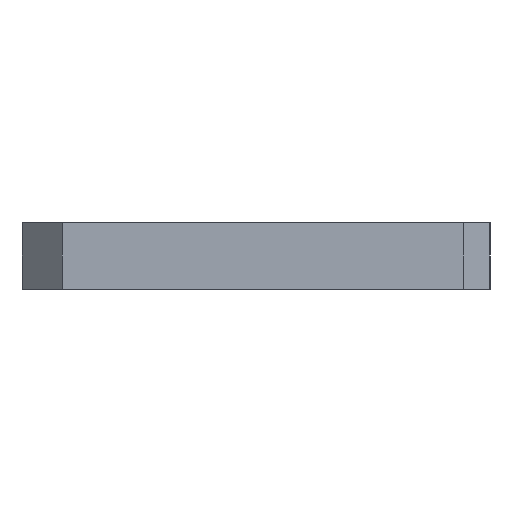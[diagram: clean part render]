
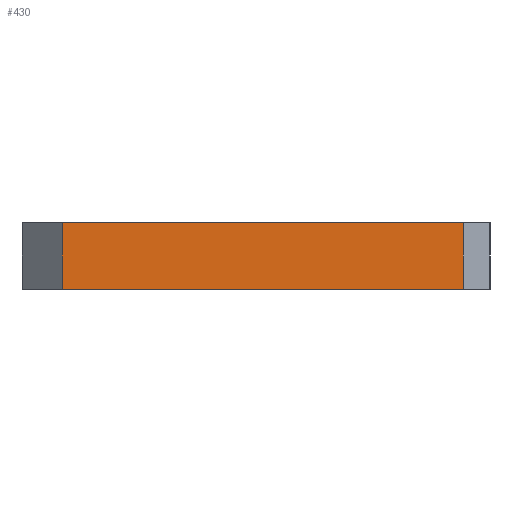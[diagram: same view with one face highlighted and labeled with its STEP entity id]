
A CAD part, left-side view. The second image highlights one B-rep face of the part: STEP entity #430.
In plain terms, the highlighted planar face has unit normal (-1, 0, 0).
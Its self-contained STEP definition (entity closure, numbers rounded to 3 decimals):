
#48=PLANE('',#487);
#64=FACE_OUTER_BOUND('',#104,.T.);
#104=EDGE_LOOP('',(#375,#376,#377,#378));
#122=LINE('',#644,#158);
#129=LINE('',#686,#165);
#136=LINE('',#711,#172);
#141=LINE('',#720,#177);
#158=VECTOR('',#515,10.);
#165=VECTOR('',#560,10.);
#172=VECTOR('',#581,10.);
#177=VECTOR('',#594,10.);
#210=VERTEX_POINT('',#630);
#216=VERTEX_POINT('',#642);
#231=VERTEX_POINT('',#683);
#232=VERTEX_POINT('',#685);
#254=EDGE_CURVE('',#216,#210,#122,.T.);
#274=EDGE_CURVE('',#231,#232,#129,.T.);
#287=EDGE_CURVE('',#210,#231,#136,.T.);
#292=EDGE_CURVE('',#216,#232,#141,.T.);
#375=ORIENTED_EDGE('',*,*,#287,.F.);
#376=ORIENTED_EDGE('',*,*,#254,.F.);
#377=ORIENTED_EDGE('',*,*,#292,.T.);
#378=ORIENTED_EDGE('',*,*,#274,.F.);
#430=ADVANCED_FACE('',(#64),#48,.T.);
#487=AXIS2_PLACEMENT_3D('',#719,#592,#593);
#515=DIRECTION('',(0.,-1.,0.));
#560=DIRECTION('',(0.,1.,0.));
#581=DIRECTION('',(0.,0.,-1.));
#592=DIRECTION('center_axis',(-1.,0.,0.));
#593=DIRECTION('ref_axis',(0.,-1.,0.));
#594=DIRECTION('',(0.,0.,-1.));
#630=CARTESIAN_POINT('',(-175.,7.,3.));
#642=CARTESIAN_POINT('',(-175.,37.,3.));
#644=CARTESIAN_POINT('',(-175.,40.,3.));
#683=CARTESIAN_POINT('',(-175.,7.,-2.));
#685=CARTESIAN_POINT('',(-175.,37.,-2.));
#686=CARTESIAN_POINT('',(-175.,40.,-2.));
#711=CARTESIAN_POINT('',(-175.,7.,0.));
#719=CARTESIAN_POINT('Origin',(-175.,40.,0.));
#720=CARTESIAN_POINT('',(-175.,37.,0.));
